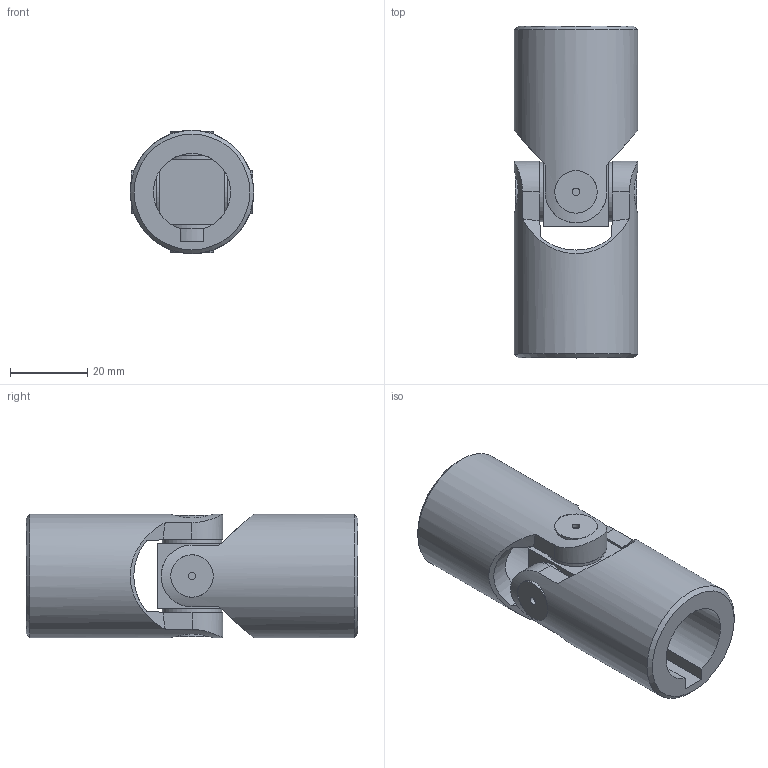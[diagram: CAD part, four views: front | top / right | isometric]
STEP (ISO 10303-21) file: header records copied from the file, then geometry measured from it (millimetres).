
FILE_DESCRIPTION(/* description */ (''),/* implementation_level */ '2;1');
FILE_NAME(/* name */ '\\SRV2016\Societa\Stefano\Disegni 3D\Dis. Clienti\0000Catalogo 3D\01Singoli G-GB\Ø32_3GB-1C_SGBS201C.stp',/* time_stamp */ '2021-11-10T15:05:23+01:00',/* author */ ('acquisti'),/* organization */ (''),/* preprocessor_version */ 'ST-DEVELOPER v15.6',/* originating_system */ 'Autodesk Inventor 2015',/* authorisation */ '');
FILE_SCHEMA (('AUTOMOTIVE_DESIGN { 1 0 10303 214 3 1 1 }'));
Length unit declared in the file: millimetre
Products named in the file (4): 1G SFE; 3GB MOS; 3GB MOC; Assieme7
Assembly tree (3 placements, depth 2):
  Assieme7
    1G SFE
    3GB MOS
    3GB MOC
Bounding box: 32 x 86 x 32 mm (x, y, z)
Volume: 41795.3 mm3; surface area: 16887.8 mm2
Topology: 3 solids, 3 shells, 89 faces, 213 edges, 138 vertices
Faces by surface type: plane 43, cylinder 32, cone 10, torus 4
Full cylindrical faces by diameter (mm): 2 x4, 15.5 x4, 20 x1, 32 x2
Entity records: 2918 total; most frequent: CARTESIAN_POINT 931, DIRECTION 391, ORIENTED_EDGE 386, EDGE_CURVE 193, AXIS2_PLACEMENT_3D 168, VERTEX_POINT 133, EDGE_LOOP 116, FACE_OUTER_BOUND 89
